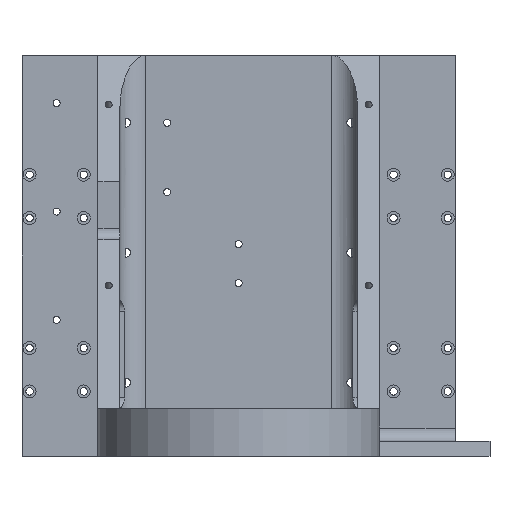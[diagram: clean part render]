
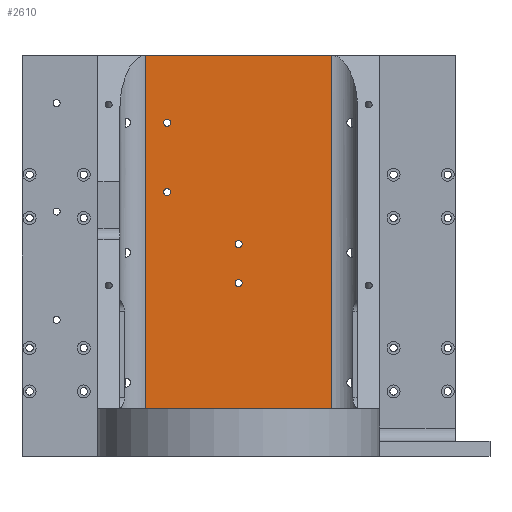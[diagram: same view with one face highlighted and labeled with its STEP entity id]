
A CAD part, left-side view. The second image highlights one B-rep face of the part: STEP entity #2610.
In plain terms, the highlighted planar face has unit normal (-1, 0, 0).
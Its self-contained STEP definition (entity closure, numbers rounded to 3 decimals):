
#720=CARTESIAN_POINT('',(95.96,108.,141.09));
#721=VERTEX_POINT('',#720);
#826=CARTESIAN_POINT('',(95.96,108.,-21.91));
#827=VERTEX_POINT('',#826);
#835=CARTESIAN_POINT('',(95.96,108.,141.09));
#836=DIRECTION('',(0.,0.,-1.));
#837=VECTOR('',#836,163.);
#838=LINE('',#835,#837);
#839=EDGE_CURVE('',#721,#827,#838,.T.);
#1053=CARTESIAN_POINT('',(95.96,22.,141.09));
#1054=VERTEX_POINT('',#1053);
#1064=CARTESIAN_POINT('',(95.96,22.,-21.91));
#1065=VERTEX_POINT('',#1064);
#1066=CARTESIAN_POINT('',(95.96,22.,-21.91));
#1067=DIRECTION('',(-0.,-0.,1.));
#1068=VECTOR('',#1067,163.);
#1069=LINE('',#1066,#1068);
#1070=EDGE_CURVE('',#1065,#1054,#1069,.T.);
#1906=CARTESIAN_POINT('',(95.96,108.,-21.91));
#1907=DIRECTION('',(0.,-1.,0.));
#1908=VECTOR('',#1907,86.);
#1909=LINE('',#1906,#1908);
#1910=EDGE_CURVE('',#827,#1065,#1909,.T.);
#2341=CARTESIAN_POINT('',(95.96,108.,141.09));
#2342=DIRECTION('',(0.,-1.,0.));
#2343=VECTOR('',#2342,86.);
#2344=LINE('',#2341,#2343);
#2345=EDGE_CURVE('',#721,#1054,#2344,.T.);
#2555=CARTESIAN_POINT('',(95.96,120.,141.09));
#2556=DIRECTION('',(1.,0.,0.));
#2557=DIRECTION('',(-0.,1.,0.));
#2558=AXIS2_PLACEMENT_3D('',#2555,#2556,#2557);
#2559=PLANE('',#2558);
#2560=CARTESIAN_POINT('',(95.96,63.379,36.09));
#2561=VERTEX_POINT('',#2560);
#2562=CARTESIAN_POINT('',(95.96,65.,36.09));
#2563=DIRECTION('',(1.,0.,-0.));
#2564=DIRECTION('',(0.,-1.,0.));
#2565=AXIS2_PLACEMENT_3D('',#2562,#2563,#2564);
#2566=CIRCLE('',#2565,1.621);
#2567=EDGE_CURVE('',#2561,#2561,#2566,.T.);
#2568=ORIENTED_EDGE('',*,*,#2567,.T.);
#2569=EDGE_LOOP('',(#2568));
#2570=FACE_BOUND('',#2569,.T.);
#2571=CARTESIAN_POINT('',(95.96,63.379,54.09));
#2572=VERTEX_POINT('',#2571);
#2573=CARTESIAN_POINT('',(95.96,65.,54.09));
#2574=DIRECTION('',(1.,0.,0.));
#2575=DIRECTION('',(0.,-1.,0.));
#2576=AXIS2_PLACEMENT_3D('',#2573,#2574,#2575);
#2577=CIRCLE('',#2576,1.621);
#2578=EDGE_CURVE('',#2572,#2572,#2577,.T.);
#2579=ORIENTED_EDGE('',*,*,#2578,.T.);
#2580=EDGE_LOOP('',(#2579));
#2581=FACE_BOUND('',#2580,.T.);
#2582=CARTESIAN_POINT('',(95.96,96.379,78.09));
#2583=VERTEX_POINT('',#2582);
#2584=CARTESIAN_POINT('',(95.96,98.,78.09));
#2585=DIRECTION('',(1.,0.,0.));
#2586=DIRECTION('',(0.,-1.,0.));
#2587=AXIS2_PLACEMENT_3D('',#2584,#2585,#2586);
#2588=CIRCLE('',#2587,1.621);
#2589=EDGE_CURVE('',#2583,#2583,#2588,.T.);
#2590=ORIENTED_EDGE('',*,*,#2589,.T.);
#2591=EDGE_LOOP('',(#2590));
#2592=FACE_BOUND('',#2591,.T.);
#2593=CARTESIAN_POINT('',(95.96,96.379,110.09));
#2594=VERTEX_POINT('',#2593);
#2595=CARTESIAN_POINT('',(95.96,98.,110.09));
#2596=DIRECTION('',(1.,0.,-0.));
#2597=DIRECTION('',(0.,-1.,0.));
#2598=AXIS2_PLACEMENT_3D('',#2595,#2596,#2597);
#2599=CIRCLE('',#2598,1.621);
#2600=EDGE_CURVE('',#2594,#2594,#2599,.T.);
#2601=ORIENTED_EDGE('',*,*,#2600,.T.);
#2602=EDGE_LOOP('',(#2601));
#2603=FACE_BOUND('',#2602,.T.);
#2604=ORIENTED_EDGE('',*,*,#1910,.T.);
#2605=ORIENTED_EDGE('',*,*,#1070,.T.);
#2606=ORIENTED_EDGE('',*,*,#2345,.F.);
#2607=ORIENTED_EDGE('',*,*,#839,.T.);
#2608=EDGE_LOOP('',(#2604,#2605,#2606,#2607));
#2609=FACE_BOUND('',#2608,.T.);
#2610=ADVANCED_FACE('',(#2570,#2581,#2592,#2603,#2609),#2559,.F.);
